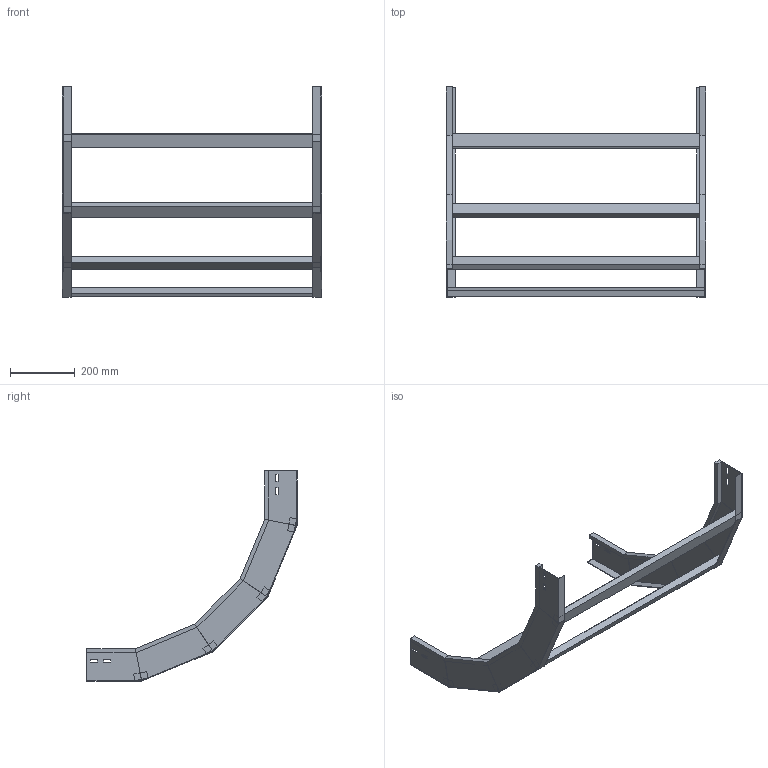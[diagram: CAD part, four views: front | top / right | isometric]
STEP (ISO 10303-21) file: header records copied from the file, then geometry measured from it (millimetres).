
FILE_DESCRIPTION (( 'STEP AP214' ), '1' );
FILE_NAME ('B2X30B5D800XX.step', '2025-03-20T10:21:04', ( '' ), ( '' ), 'SwSTEP 2.0', 'SolidWorks 2023', '' );
FILE_SCHEMA (( 'AUTOMOTIVE_DESIGN' ));
Length unit declared in the file: millimetre
Products named in the file (3): LONGH.SALITA_90°_H100_R500; B2X30B5D800XX; TRAVERSINO_800
Assembly tree (6 placements, depth 2):
  B2X30B5D800XX
    LONGH.SALITA_90°_H100_R500  x2
    TRAVERSINO_800  x4
Bounding box: 800 x 649.05 x 649.05 mm (x, y, z)
Volume: 3418445.4 mm3; surface area: 952383.1 mm2
Topology: 6 solids, 6 shells, 140 faces, 320 edges, 192 vertices
Faces by surface type: plane 140
Entity records: 1872 total; most frequent: CARTESIAN_POINT 309, ORIENTED_EDGE 296, DIRECTION 294, LINE 148, VECTOR 148, EDGE_CURVE 148, VERTEX_POINT 88, AXIS2_PLACEMENT_3D 73
